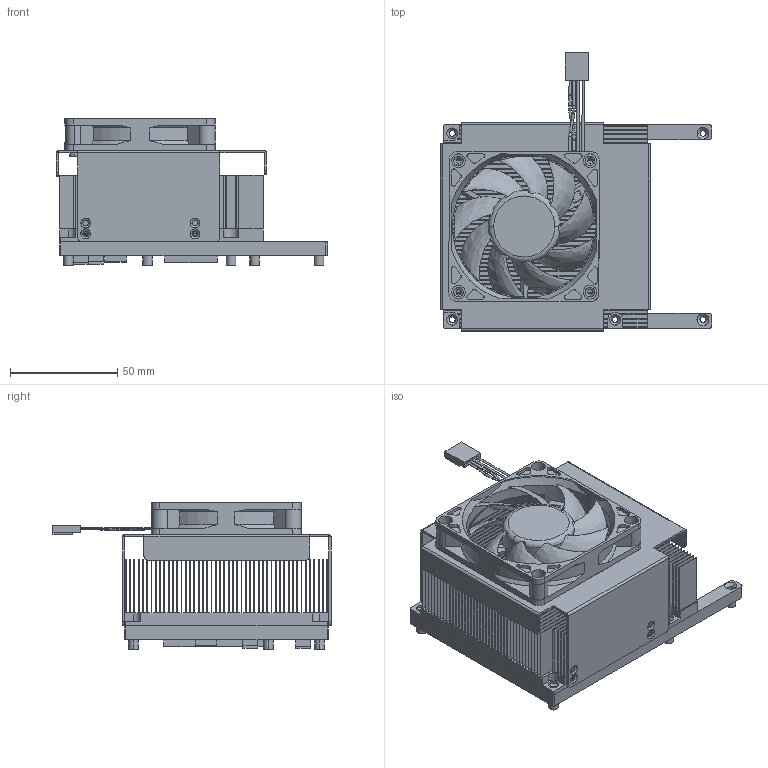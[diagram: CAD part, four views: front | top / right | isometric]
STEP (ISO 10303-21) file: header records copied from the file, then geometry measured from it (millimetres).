
FILE_DESCRIPTION((''),'2;1');
FILE_NAME('0-ESM-TGH_ASM','2022-09-16T11:47:10',('kobe_chang'),(''),'CREO PARAMETRIC BY PTC INC, 2018300','CREO PARAMETRIC BY PTC INC, 2018300','');
FILE_SCHEMA(('CONFIG_CONTROL_DESIGN','GEOMETRIC_VALIDATION_PROPERTIES_MIM'));
Products named in the file (12): ESM-TGH_HEATSPREADER; PK404-10-10-0_5T; ESM-TGH_HEATSPREADER-CU; PK404-7-7-1T; E1961223000023R_ASM; SKIVED_HEATSINK; ESM-FAN-BRACKET; FAN-7015_ASM; ESM-HEATPIPE; E1961123450004R_ASM; E1931031010R; 0-ESM-TGH_ASM
Assembly tree (15 placements, depth 3):
  0-ESM-TGH_ASM
    E1961223000023R_ASM
      ESM-TGH_HEATSPREADER
      PK404-10-10-0_5T
      ESM-TGH_HEATSPREADER-CU
      PK404-7-7-1T  x2
    E1961123450004R_ASM
      SKIVED_HEATSINK
      ESM-FAN-BRACKET
      FAN-7015_ASM
      ESM-HEATPIPE  x2
    E1931031010R  x3
Bounding box: 126.5 x 129.74 x 68.5 mm (x, y, z)
Volume: 185139 mm3; surface area: 330611.7 mm2
Topology: 14 solids, 14 shells, 1395 faces, 3842 edges, 2507 vertices
Faces by surface type: plane 695, cylinder 428, cone 93, bspline 83, torus 50, extrusion 34, revolution 8, sphere 4
Entity records: 54666 total; most frequent: CARTESIAN_POINT 20160, ORIENTED_EDGE 6992, DIRECTION 6610, EDGE_CURVE 3496, VERTEX_POINT 2283, AXIS2_PLACEMENT_3D 2281, VECTOR 2040, LINE 2006
